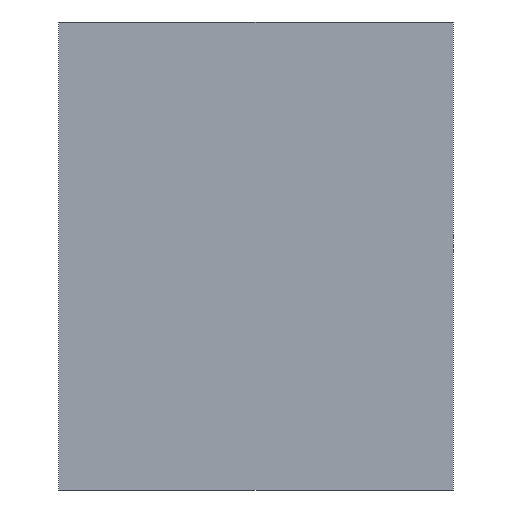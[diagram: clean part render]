
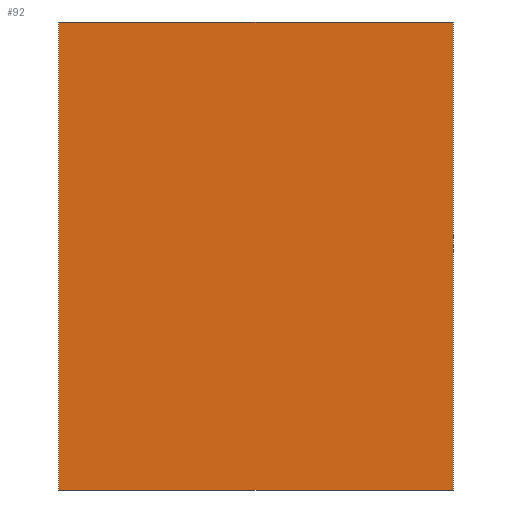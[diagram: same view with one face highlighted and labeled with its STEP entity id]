
A CAD part, top view. The second image highlights one B-rep face of the part: STEP entity #92.
In plain terms, the highlighted planar face has unit normal (0, 0, 1).
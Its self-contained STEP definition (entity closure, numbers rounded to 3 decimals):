
#53=CARTESIAN_POINT('Axis2P3D Location',(0.,0.,0.)) ;
#58=CARTESIAN_POINT('Line Origine',(53.5,0.,0.)) ;
#62=CARTESIAN_POINT('Vertex',(0.,0.,0.)) ;
#64=CARTESIAN_POINT('Vertex',(107.,0.,0.)) ;
#67=CARTESIAN_POINT('Line Origine',(107.,63.5,0.)) ;
#71=CARTESIAN_POINT('Vertex',(107.,127.,0.)) ;
#74=CARTESIAN_POINT('Line Origine',(53.5,127.,0.)) ;
#78=CARTESIAN_POINT('Vertex',(0.,127.,0.)) ;
#81=CARTESIAN_POINT('Line Origine',(0.,63.5,0.)) ;
#54=DIRECTION('Axis2P3D Direction',(0.,0.,1.)) ;
#55=DIRECTION('Axis2P3D XDirection',(1.,0.,0.)) ;
#59=DIRECTION('Vector Direction',(1.,0.,0.)) ;
#68=DIRECTION('Vector Direction',(0.,1.,0.)) ;
#75=DIRECTION('Vector Direction',(-1.,0.,0.)) ;
#82=DIRECTION('Vector Direction',(0.,-1.,0.)) ;
#56=AXIS2_PLACEMENT_3D('Plane Axis2P3D',#53,#54,#55) ;
#87=ORIENTED_EDGE('',*,*,#66,.T.) ;
#88=ORIENTED_EDGE('',*,*,#73,.T.) ;
#89=ORIENTED_EDGE('',*,*,#80,.T.) ;
#90=ORIENTED_EDGE('',*,*,#85,.T.) ;
#60=VECTOR('Line Direction',#59,1.) ;
#69=VECTOR('Line Direction',#68,1.) ;
#76=VECTOR('Line Direction',#75,1.) ;
#83=VECTOR('Line Direction',#82,1.) ;
#92=ADVANCED_FACE('Fill.1',(#91),#57,.T.) ;
#66=EDGE_CURVE('',#63,#65,#61,.T.) ;
#73=EDGE_CURVE('',#65,#72,#70,.T.) ;
#80=EDGE_CURVE('',#72,#79,#77,.T.) ;
#85=EDGE_CURVE('',#79,#63,#84,.T.) ;
#86=EDGE_LOOP('',(#87,#88,#89,#90)) ;
#91=FACE_OUTER_BOUND('',#86,.T.) ;
#61=LINE('Line',#58,#60) ;
#70=LINE('Line',#67,#69) ;
#77=LINE('Line',#74,#76) ;
#84=LINE('Line',#81,#83) ;
#57=PLANE('',#56) ;
#63=VERTEX_POINT('',#62) ;
#65=VERTEX_POINT('',#64) ;
#72=VERTEX_POINT('',#71) ;
#79=VERTEX_POINT('',#78) ;
